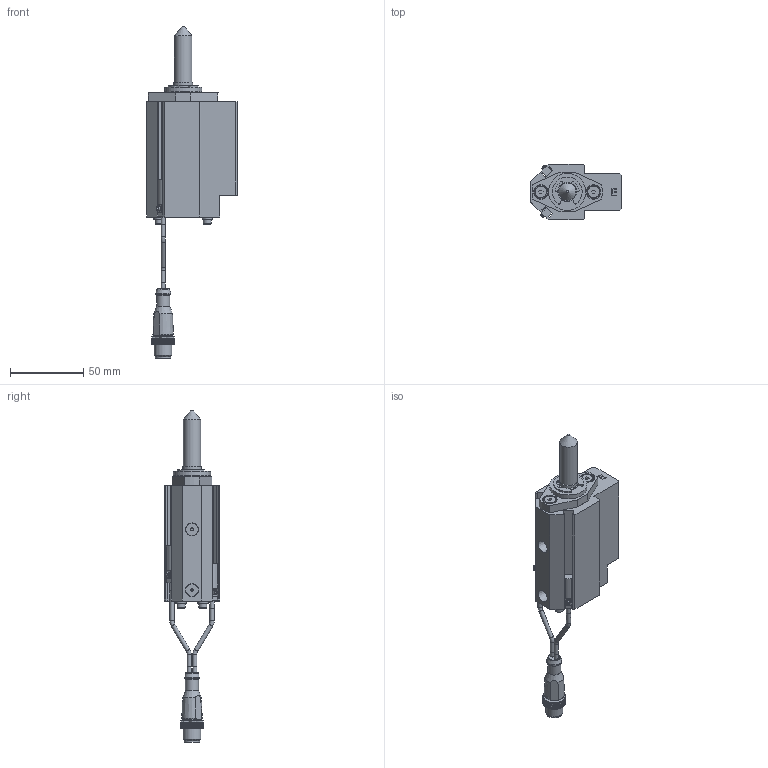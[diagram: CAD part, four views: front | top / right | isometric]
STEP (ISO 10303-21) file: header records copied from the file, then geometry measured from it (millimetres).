
FILE_DESCRIPTION(/* description */ ('NAAMS FLOATING MICRO PIN'),/* implementation_level */ '2;1');
FILE_NAME(/* name */ 'C:\Vault Workspace\CAD\Welker\Shot Pin\NMP\NMP120032AENL3.stp',/* time_stamp */ '2021-01-27T10:39:52-05:00',/* author */ ('WELKER'),/* organization */ (''),/* preprocessor_version */ 'ST-DEVELOPER v18.1',/* originating_system */ 'Autodesk Inventor 2020',/* authorisation */ '');
FILE_SCHEMA (('AUTOMOTIVE_DESIGN { 1 0 10303 214 3 1 1 }'));
Length unit declared in the file: millimetre
Products named in the file (16): NMPL01; NMP L3 SWITCH; L3 Connector; L3 Sensor 1; L3 Sensor 2; L3 Sensor cable; L3 Sensor cable 2; M3X0.5-8 SHCS; NL3; NMPE06; NMPE03; NMPE05-DIA-LENGTH; 985432A218; NMPE01E-PORT; RMPE02; M5X5 SHOULDER
Assembly tree (22 placements, depth 3):
  NMPL01
    NMP L3 SWITCH
      L3 Connector
      L3 Sensor 1
      L3 Sensor 2
      L3 Sensor cable
      L3 Sensor cable 2
    M3X0.5-8 SHCS  x4
    NL3  x4
    NMPE06
    NMPE03
    NMPE05-DIA-LENGTH
    985432A218
    NMPE01E-PORT
    RMPE02
    M5X5 SHOULDER  x2
Bounding box: 62 x 38.1 x 227.12 mm (x, y, z)
Volume: 116104.6 mm3; surface area: 45417.6 mm2
Topology: 21 solids, 21 shells, 748 faces, 2030 edges, 1357 vertices
Faces by surface type: plane 553, cylinder 144, cone 35, torus 11, sphere 3, bspline 2
Full cylindrical faces by diameter (mm): 2 x2, 2.459 x4, 2.9 x10, 3 x5, 3.242 x2, 3.4 x4, 4 x2, 5 x6, 5.5 x4, 6.647 x2, 7 x4, 8 x2, 8.3 x2, 9 x3, 10 x3, 10.4 x1, 10.5 x1, 12 x2, 13 x3, 16 x2, 19.05 x3, 21 x1, 22.5 x1, 23.672 x1, 24 x1, 25.4 x1, 25.5 x1, 26.5 x1, 28.677 x1, 29.21 x1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
Entity records: 22859 total; most frequent: CARTESIAN_POINT 4181, ORIENTED_EDGE 3752, DIRECTION 3736, EDGE_CURVE 1876, LINE 1388, VECTOR 1388, VERTEX_POINT 1262, AXIS2_PLACEMENT_3D 1174
